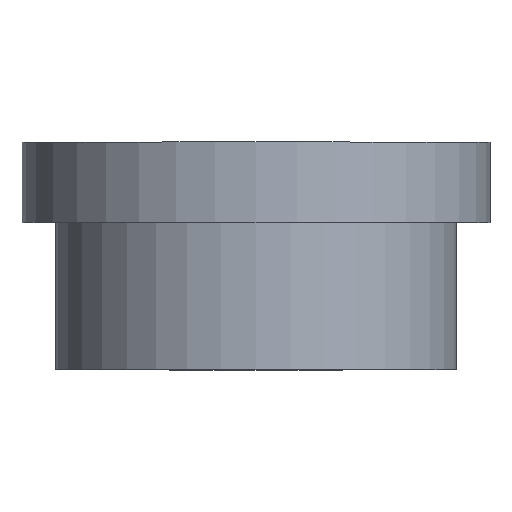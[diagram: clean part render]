
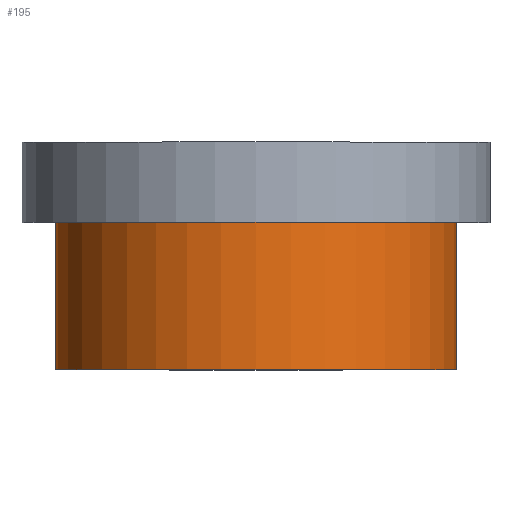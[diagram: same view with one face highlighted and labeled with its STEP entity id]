
A CAD part, top view. The second image highlights one B-rep face of the part: STEP entity #195.
In plain terms, the highlighted cylindrical face has radius 15 mm (diameter 30 mm), a full revolution.
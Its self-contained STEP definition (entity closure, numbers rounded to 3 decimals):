
#32=ORIENTED_EDGE('',*,*,#50,.T.);
#33=ORIENTED_EDGE('',*,*,#49,.F.);
#49=EDGE_CURVE('',#59,#59,#69,.T.);
#50=EDGE_CURVE('',#60,#60,#70,.T.);
#59=VERTEX_POINT('',#280);
#60=VERTEX_POINT('',#283);
#69=CIRCLE('',#213,15.);
#70=CIRCLE('',#215,15.);
#82=EDGE_LOOP('',(#32));
#83=EDGE_LOOP('',(#33));
#102=FACE_BOUND('',#82,.T.);
#103=FACE_BOUND('',#83,.T.);
#117=CYLINDRICAL_SURFACE('',#214,15.);
#195=ADVANCED_FACE('',(#102,#103),#117,.T.);
#213=AXIS2_PLACEMENT_3D('',#279,#241,#242);
#214=AXIS2_PLACEMENT_3D('',#281,#243,#244);
#215=AXIS2_PLACEMENT_3D('',#282,#245,#246);
#241=DIRECTION('',(0.,-1.,0.));
#242=DIRECTION('',(0.,0.,-1.));
#243=DIRECTION('',(0.,-1.,0.));
#244=DIRECTION('',(0.,0.,-1.));
#245=DIRECTION('',(0.,-1.,0.));
#246=DIRECTION('',(0.,0.,-1.));
#279=CARTESIAN_POINT('',(0.,0.,0.));
#280=CARTESIAN_POINT('',(0.,0.,-15.));
#281=CARTESIAN_POINT('',(0.,0.,0.));
#282=CARTESIAN_POINT('',(0.,11.,0.));
#283=CARTESIAN_POINT('',(0.,11.,-15.));
